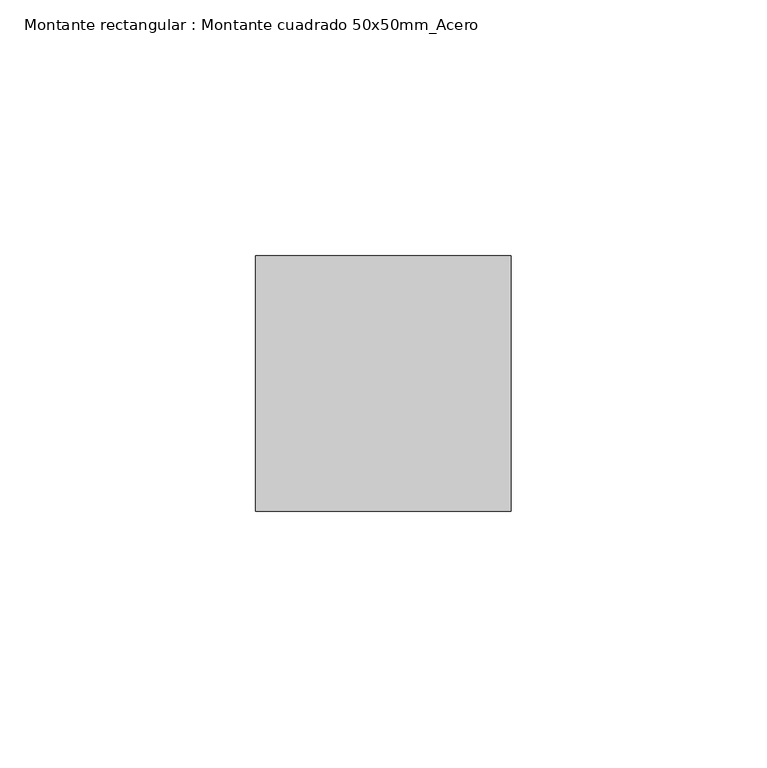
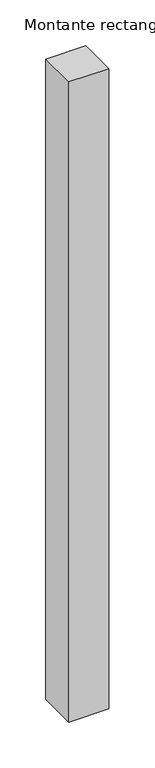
"""IFC4 building model written with IfcOpenShell, lengths in millimetres: member geometry, Montante rectangular : Montante cuadrado 50x50mm_Acero."""

import ifcopenshell
import ifcopenshell.guid

model = None  # the IFC model being written
_history = None  # IfcOwnerHistory: only IFC2X3 demands one
_inside = {}  # id of a spatial element -> (the spatial element, [elements in it])
_under = {}  # id of a project, library or spatial element -> (it, [spatial elements below it])
_declared = {}  # id of a project -> (the project, [libraries it declares])
_typed = {}  # id of a type object -> (the type object, [elements of that type])
_made_of = {}  # id of a material, layer set ... -> (it, [elements and type objects made of it])


def new_model(schema):
    """Start an empty IFC model of exactly this schema.

    Asked for "IFC4X3", IfcOpenShell would pick the latest addendum, in which some entities
    have other attributes; the version numbers below select the first issue.
    IFC2X3 requires an IfcOwnerHistory on every rooted entity: one is made here for all.
    """
    global model, _history
    if schema == "IFC4X3":
        model = ifcopenshell.file(schema_version=(4, 3, 0, 0))
    else:
        model = ifcopenshell.file(schema=schema)
    _inside.clear()
    _under.clear()
    _declared.clear()
    _typed.clear()
    _made_of.clear()
    _history = None
    if model.schema == "IFC2X3":
        org = make("IfcOrganization", Name="unknown")
        user = make(
            "IfcPersonAndOrganization",
            ThePerson=make("IfcPerson", FamilyName="unknown"),
            TheOrganization=org,
        )
        app = make(
            "IfcApplication",
            ApplicationDeveloper=org,
            Version="unknown",
            ApplicationFullName="unknown",
            ApplicationIdentifier="unknown",
        )
        _history = make(
            "IfcOwnerHistory",
            OwningUser=user,
            OwningApplication=app,
            ChangeAction="ADDED",
            CreationDate=0,
        )
    return model


def make(cls, **values):
    """One entity of the class cls with the attributes given. An attribute that is None is left unset."""
    return model.create_entity(
        cls, **{name: value for name, value in values.items() if value is not None}
    )


def rooted(cls, **values):
    """An entity with a GlobalId (a new one), such as an element, a storey or a relation."""
    return make(cls, GlobalId=ifcopenshell.guid.new(), OwnerHistory=_history, **values)


def si_unit(unit_type, name, prefix=None):
    """IfcSIUnit, for example si_unit("LENGTHUNIT", "METRE", prefix="MILLI")."""
    return make("IfcSIUnit", UnitType=unit_type, Prefix=prefix, Name=name)


def assignment(units):
    """IfcUnitAssignment: the units of a project."""
    return None if units is None else make("IfcUnitAssignment", Units=units)


def point(xyz):
    """IfcCartesianPoint."""
    return None if xyz is None else make("IfcCartesianPoint", Coordinates=xyz)


def direction(xyz):
    """IfcDirection."""
    return None if xyz is None else make("IfcDirection", DirectionRatios=xyz)


def frame(location, z_axis=None, x_axis=None):
    """IfcAxis2Placement3D, a coordinate frame: its origin and axes. An axis left out is left unset."""
    return make(
        "IfcAxis2Placement3D",
        Location=point(location),
        Axis=direction(z_axis),
        RefDirection=direction(x_axis),
    )


def origin():
    """The frame at (0, 0, 0) with its axes left unset."""
    return frame((0.0, 0.0, 0.0))


def place(relative_to, where):
    """IfcLocalPlacement: puts the frame where relative to a parent placement (None: the world)."""
    return make(
        "IfcLocalPlacement", PlacementRelTo=relative_to, RelativePlacement=where
    )


def context(
    kind, dimensions, precision=None, world=None, true_north=None, identifier=None
):
    """IfcGeometricRepresentationContext, for example the 3D "Model" context."""
    return make(
        "IfcGeometricRepresentationContext",
        ContextIdentifier=identifier,
        ContextType=kind,
        CoordinateSpaceDimension=dimensions,
        Precision=precision,
        WorldCoordinateSystem=world,
        TrueNorth=true_north,
    )


def project(units=None, contexts=None):
    """IfcProject with its units and contexts."""
    return rooted(
        "IfcProject",
        Name="project",
        RepresentationContexts=contexts,
        UnitsInContext=assignment(units),
    )


def spatial(cls, under=None, at=None, **own):
    """A site, building, storey or space (cls), placed at a placement, below another one or the project."""
    s = rooted(cls, ObjectPlacement=at, **own)
    if under is not None:
        _under.setdefault(under.id(), (under, []))[1].append(s)
    return s


def polyline(points):
    """IfcPolyline through the points."""
    return make("IfcPolyline", Points=[point(p) for p in points])


def outline(outer, holes=None, kind="AREA"):
    """IfcArbitraryClosedProfileDef: a profile drawn as a closed curve; with holes, ...WithVoids."""
    if holes is None:
        return make("IfcArbitraryClosedProfileDef", ProfileType=kind, OuterCurve=outer)
    return make(
        "IfcArbitraryProfileDefWithVoids",
        ProfileType=kind,
        OuterCurve=outer,
        InnerCurves=holes,
    )


def extrude(swept, where, along, depth):
    """IfcExtrudedAreaSolid: the profile swept, set in the frame where, extruded along a direction by depth."""
    return make(
        "IfcExtrudedAreaSolid",
        SweptArea=swept,
        Position=where,
        ExtrudedDirection=direction(along),
        Depth=depth,
    )


def shape(context_of_items, identifier, shape_type, items):
    """IfcShapeRepresentation: the items that make up one representation, for example the "Body"."""
    return make(
        "IfcShapeRepresentation",
        ContextOfItems=context_of_items,
        RepresentationIdentifier=identifier,
        RepresentationType=shape_type,
        Items=items,
    )


def source(mapping_origin, context_of_items, identifier, shape_type, items):
    """IfcRepresentationMap: a shape defined once, which mapped items show again and again."""
    return make(
        "IfcRepresentationMap",
        MappingOrigin=mapping_origin,
        MappedRepresentation=shape(context_of_items, identifier, shape_type, items),
    )


def transform(
    local_origin,
    x_axis=None,
    y_axis=None,
    z_axis=None,
    scale=None,
    scale2=None,
    scale3=None,
    uniform=True,
):
    """IfcCartesianTransformationOperator3D, or its non-uniform kind. x_axis, y_axis, z_axis: its Axis1, 2, 3."""
    if uniform:
        return make(
            "IfcCartesianTransformationOperator3D",
            Axis1=direction(x_axis),
            Axis2=direction(y_axis),
            LocalOrigin=point(local_origin),
            Scale=scale,
            Axis3=direction(z_axis),
        )
    return make(
        "IfcCartesianTransformationOperator3DnonUniform",
        Axis1=direction(x_axis),
        Axis2=direction(y_axis),
        LocalOrigin=point(local_origin),
        Scale=scale,
        Axis3=direction(z_axis),
        Scale2=scale2,
        Scale3=scale3,
    )


def mapped(mapping_source, mapping_target):
    """IfcMappedItem: shows the shape of a source again, moved by a transform."""
    return make(
        "IfcMappedItem", MappingSource=mapping_source, MappingTarget=mapping_target
    )


def made_of(thing, what):
    """Note that an element or type object is made of a material, layer set ...; save() writes the relation."""
    if what is not None:
        _made_of.setdefault(what.id(), (what, []))[1].append(thing)
    return thing


def element(
    cls,
    number,
    at=None,
    inside=None,
    cuts=None,
    type_object=None,
    material=None,
    context=None,
    identifier="Body",
    shape_type=None,
    held_by="IfcProductDefinitionShape",
    body=None,
    shapes=None,
    **own,
):
    """One element of the class cls, such as IfcWall. Its Tag is "e" and its number.

    at: its placement. inside: the storey or other place that contains it. cuts: it is an
    opening in that element (IfcRelVoidsElement). A single representation is given by context,
    identifier, shape_type and body (its items); several are given by shapes. held_by: the class
    of the entity that holds the representations. save() writes the other relations.
    """
    e = rooted(cls, Tag="e%d" % number, ObjectPlacement=at, **own)
    if body is not None:
        shapes = [shape(context, identifier, shape_type, body)]
    if shapes is not None:
        e.Representation = make(held_by, Representations=shapes)
    if inside is not None:
        _inside.setdefault(inside.id(), (inside, []))[1].append(e)
    if cuts is not None:
        rooted(
            "IfcRelVoidsElement", RelatingBuildingElement=cuts, RelatedOpeningElement=e
        )
    if type_object is not None:
        _typed.setdefault(type_object.id(), (type_object, []))[1].append(e)
    return made_of(e, material)


def aggregate(whole, parts):
    """IfcRelAggregates: a whole, such as a stair, and the parts it consists of."""
    return rooted("IfcRelAggregates", RelatingObject=whole, RelatedObjects=parts)


def save(model, path):
    """Write the relations noted so far, then the file.

    IfcRelAggregates (storeys below a building ...), IfcRelContainedInSpatialStructure (elements
    in a storey), IfcRelDefinesByType, IfcRelAssociatesMaterial and IfcRelDeclares: one each for
    every whole, place, type object, material and project.
    """
    for whole, parts in _under.values():
        aggregate(whole, parts)
    for where, things in _inside.values():
        rooted(
            "IfcRelContainedInSpatialStructure",
            RelatedElements=things,
            RelatingStructure=where,
        )
    for kind, things in _typed.values():
        rooted("IfcRelDefinesByType", RelatedObjects=things, RelatingType=kind)
    for what, things in _made_of.values():
        rooted("IfcRelAssociatesMaterial", RelatedObjects=things, RelatingMaterial=what)
    for by, libraries in _declared.values():
        rooted("IfcRelDeclares", RelatingContext=by, RelatedDefinitions=libraries)
    model.write(path)


def montante_rectangular_montante_cuadrado_50x50mm_acero_ca4e556f(model_context):
    return source(origin(), model_context, "Body", "SweptSolid", [
        extrude(outline(polyline([(-50.0, 0.0), (0.0, 0.0), (0.0, -50.0), (-50.0, -50.0), (-50.0, 0.0)])), frame((0.0, 0.0, -850.0), z_axis=(0.0, 0.0, 1.0), x_axis=(1.0, 0.0, 0.0)), (0.0, 0.0, 1.0), 850.0),
    ])


if __name__ == "__main__":
    model = new_model("IFC4")
    model_context = context("Model", 3, world=origin())
    ifc_project = project(units=[si_unit("LENGTHUNIT", "METRE", prefix="MILLI")], contexts=[model_context])
    site = spatial("IfcSite", under=ifc_project)
    building = spatial("IfcBuilding", under=site)
    placement = place(None, origin())
    montante_rectangular_montante_cuadrado_50x50mm_acero_shape = montante_rectangular_montante_cuadrado_50x50mm_acero_ca4e556f(model_context)
    element("IfcMember", 1, ObjectType="Montante rectangular : Montante cuadrado 50x50mm_Acero", at=placement, inside=building, context=model_context, shape_type="MappedRepresentation", body=[
        mapped(montante_rectangular_montante_cuadrado_50x50mm_acero_shape, transform((0.0, 0.0, 0.0), x_axis=(1.0, 0.0, 0.0), y_axis=(0.0, 1.0, 0.0), z_axis=(0.0, 0.0, 1.0))),
    ])
    save(model, "model.ifc")
